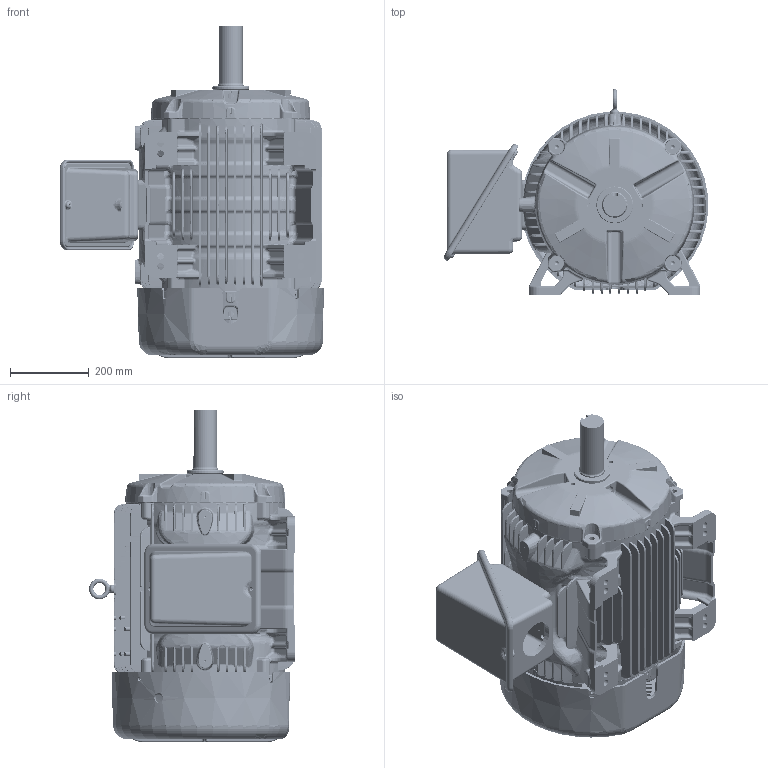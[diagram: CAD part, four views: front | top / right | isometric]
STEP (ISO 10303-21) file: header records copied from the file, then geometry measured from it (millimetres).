
FILE_DESCRIPTION((''),'2;1');
FILE_NAME('CARB_ASSY_ASM','2013-09-19T',('emd2341'),('Nidec Motor Corporation'),'PRO/ENGINEER BY PARAMETRIC TECHNOLOGY CORPORATION, 2013150','PRO/ENGINEER BY PARAMETRIC TECHNOLOGY CORPORATION, 2013150','');
FILE_SCHEMA(('CONFIG_CONTROL_DESIGN'));
Products named in the file (11): 0997397; 0455294; 0455293; 0498186; 0498187; 0997813; 360_INPRO; 0133166; 0997314; 0997312; CARB_ASSY_ASM
Assembly tree (10 placements, depth 2):
  CARB_ASSY_ASM
    0997397
    0455294
    0455293
    0498186
    0498187
    0997813
    360_INPRO
    0133166
    0997314
    0997312
Bounding box: 671.45 x 522.33 x 842.2 mm (x, y, z)
Volume: 21967086 mm3; surface area: 5052371.6 mm2
Topology: 12 solids, 12 shells, 6485 faces, 16063 edges, 9567 vertices
Faces by surface type: bspline 2261, plane 1123, cylinder 1117, torus 810, extrusion 642, cone 358, sphere 174
Entity records: 319429 total; most frequent: CARTESIAN_POINT 186064, ORIENTED_EDGE 31990, DIRECTION 20867, EDGE_CURVE 15995, VERTEX_POINT 9567, B_SPLINE_CURVE_WITH_KNOTS 7863, AXIS2_PLACEMENT_3D 7848, EDGE_LOOP 6736
